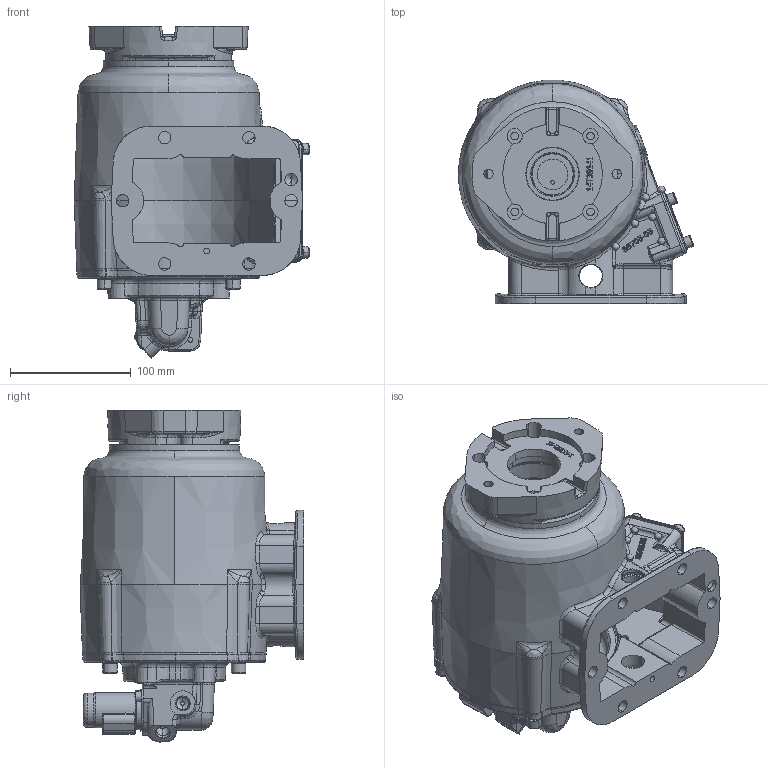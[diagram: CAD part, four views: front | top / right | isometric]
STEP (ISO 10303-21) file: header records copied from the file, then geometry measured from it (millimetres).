
FILE_DESCRIPTION (( 'STEP AP203' ), '1' );
FILE_NAME ('CS6S-XXXXX-S3QX.STEP', '2023-04-11T14:37:49', ( '' ), ( '' ), 'SwSTEP 2.0', 'SolidWorks 2021', '' );
FILE_SCHEMA (( 'CONFIG_CONTROL_DESIGN' ));
Length unit declared in the file: inch
Products named in the file (10): 19T41118; 19T40859; 14TA3997; 19T35237; 15T41597; 35T40860-2; 16T41119; 01T37072; CS6S-XXXXX-S3QX; 14T39141
Assembly tree (16 placements, depth 3):
  CS6S-XXXXX-S3QX
    01T37072
    16T41119
    19T35237  x4
    19T41118  x4
    15T41597
    35T40860-2
    19T40859  x2
    14TA3997
      14T39141
Bounding box: 195.33 x 185.25 x 275.43 mm (x, y, z)
Volume: 1298615.6 mm3; surface area: 377770.4 mm2
Topology: 16 solids, 16 shells, 2317 faces, 5979 edges, 3674 vertices
Faces by surface type: bspline 854, plane 592, cylinder 544, cone 233, torus 90, sphere 4
Entity records: 151883 total; most frequent: CARTESIAN_POINT 104876, ORIENTED_EDGE 10984, DIRECTION 7063, EDGE_CURVE 5492, VERTEX_POINT 3459, AXIS2_PLACEMENT_3D 2498, EDGE_LOOP 2367, FACE_OUTER_BOUND 2164
